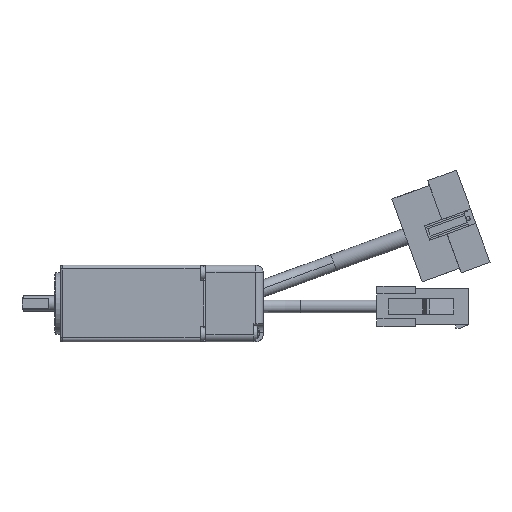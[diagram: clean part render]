
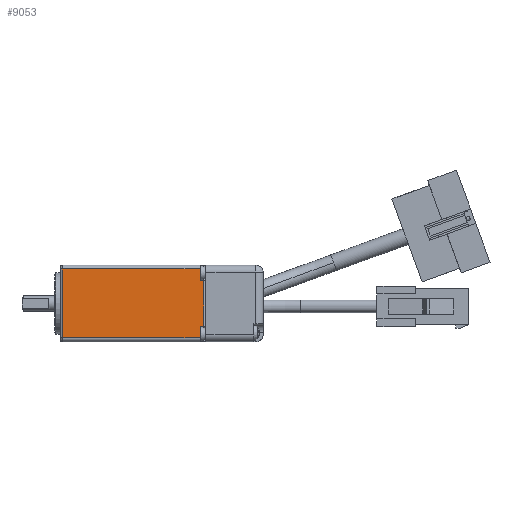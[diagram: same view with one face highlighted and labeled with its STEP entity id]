
A CAD part, front view. The second image highlights one B-rep face of the part: STEP entity #9053.
In plain terms, the highlighted planar face has unit normal (0, -1, 0).
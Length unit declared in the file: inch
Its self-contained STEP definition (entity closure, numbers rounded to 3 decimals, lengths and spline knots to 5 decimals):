
#110=LINE('',#13310,#990);
#122=LINE('',#13342,#1002);
#123=LINE('',#13343,#1003);
#124=LINE('',#13345,#1004);
#125=LINE('',#13347,#1005);
#126=LINE('',#13349,#1006);
#127=LINE('',#13351,#1007);
#128=LINE('',#13354,#1008);
#990=VECTOR('',#10598,1.41732);
#1002=VECTOR('',#10622,1.41732);
#1003=VECTOR('',#10623,0.70866);
#1004=VECTOR('',#10624,0.11811);
#1005=VECTOR('',#10625,0.03937);
#1006=VECTOR('',#10626,0.47244);
#1007=VECTOR('',#10627,0.01969);
#1008=VECTOR('',#10630,0.09843);
#2024=FACE_OUTER_BOUND('',#2721,.T.);
#2721=EDGE_LOOP('',(#6066,#6067,#6068,#6069,#6070,#6071,#6072,#6073,#6074));
#3365=CIRCLE('',#9619,0.01969);
#3776=VERTEX_POINT('',#13308);
#3777=VERTEX_POINT('',#13309);
#3790=VERTEX_POINT('',#13340);
#3791=VERTEX_POINT('',#13341);
#3792=VERTEX_POINT('',#13344);
#3793=VERTEX_POINT('',#13346);
#3794=VERTEX_POINT('',#13348);
#3795=VERTEX_POINT('',#13350);
#3796=VERTEX_POINT('',#13352);
#4685=EDGE_CURVE('',#3776,#3777,#110,.T.);
#4701=EDGE_CURVE('',#3790,#3791,#122,.T.);
#4702=EDGE_CURVE('',#3790,#3776,#123,.T.);
#4703=EDGE_CURVE('',#3777,#3792,#124,.T.);
#4704=EDGE_CURVE('',#3793,#3792,#125,.T.);
#4705=EDGE_CURVE('',#3793,#3794,#126,.T.);
#4706=EDGE_CURVE('',#3794,#3795,#127,.T.);
#4707=EDGE_CURVE('',#3795,#3796,#3365,.T.);
#4708=EDGE_CURVE('',#3791,#3796,#128,.T.);
#6066=ORIENTED_EDGE('',*,*,#4701,.F.);
#6067=ORIENTED_EDGE('',*,*,#4702,.T.);
#6068=ORIENTED_EDGE('',*,*,#4685,.T.);
#6069=ORIENTED_EDGE('',*,*,#4703,.T.);
#6070=ORIENTED_EDGE('',*,*,#4704,.F.);
#6071=ORIENTED_EDGE('',*,*,#4705,.T.);
#6072=ORIENTED_EDGE('',*,*,#4706,.T.);
#6073=ORIENTED_EDGE('',*,*,#4707,.T.);
#6074=ORIENTED_EDGE('',*,*,#4708,.F.);
#8692=PLANE('',#9618);
#9053=ADVANCED_FACE('',(#2024),#8692,.T.);
#9618=AXIS2_PLACEMENT_3D('',#13339,#10620,#10621);
#9619=AXIS2_PLACEMENT_3D('',#13353,#10628,#10629);
#10598=DIRECTION('',(1.,0.,0.));
#10620=DIRECTION('center_axis',(0.,-1.,0.));
#10621=DIRECTION('ref_axis',(0.,0.,-1.));
#10622=DIRECTION('',(1.,0.,0.));
#10623=DIRECTION('',(0.,0.,-1.));
#10624=DIRECTION('',(0.,0.,1.));
#10625=DIRECTION('',(-1.,0.,0.));
#10626=DIRECTION('',(0.,0.,1.));
#10627=DIRECTION('',(-1.,0.,0.));
#10628=DIRECTION('center_axis',(0.,1.,0.));
#10629=DIRECTION('ref_axis',(0.,0.,
-1.));
#10630=DIRECTION('',(0.,0.,-1.));
#13308=CARTESIAN_POINT('',(-1.32558,-0.7874,-0.74803));
#13309=CARTESIAN_POINT('',(0.09174,-0.7874,-0.74803));
#13310=CARTESIAN_POINT('',(-1.36495,-0.7874,-0.74803));
#13339=CARTESIAN_POINT('Origin',(-1.36495,-0.7874,-0.03937));
#13340=CARTESIAN_POINT('',(-1.32558,-0.7874,-0.03937));
#13341=CARTESIAN_POINT('',(0.09174,-0.7874,-0.03937));
#13342=CARTESIAN_POINT('',(0.09174,-0.7874,-0.03937));
#13343=CARTESIAN_POINT('',(-1.32558,-0.7874,-0.03937));
#13344=CARTESIAN_POINT('',(0.09174,-0.7874,-0.62992));
#13345=CARTESIAN_POINT('',(0.09174,-0.7874,-0.03937));
#13346=CARTESIAN_POINT('',(0.13111,-0.7874,-0.62992));
#13347=CARTESIAN_POINT('',(0.09174,-0.7874,-0.62992));
#13348=CARTESIAN_POINT('',(0.13111,-0.7874,-0.15748));
#13349=CARTESIAN_POINT('',(0.13111,-0.7874,-0.03937));
#13350=CARTESIAN_POINT('',(0.11143,-0.7874,-0.15748));
#13351=CARTESIAN_POINT('',(-1.36495,-0.7874,-0.15748));
#13352=CARTESIAN_POINT('',(0.09174,-0.7874,-0.1378));
#13353=CARTESIAN_POINT('Origin',(0.11143,-0.7874,-0.1378));
#13354=CARTESIAN_POINT('',(0.09174,-0.7874,-0.1378));
